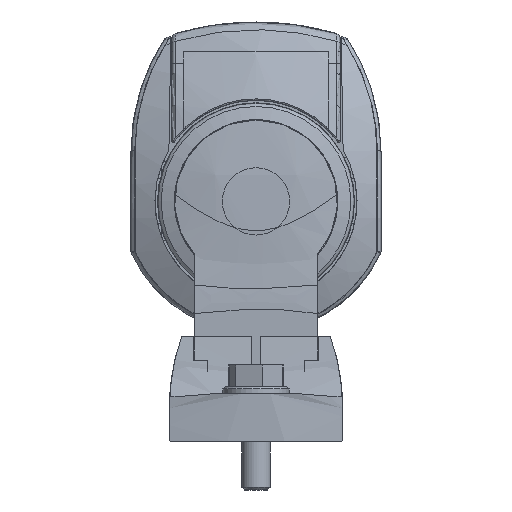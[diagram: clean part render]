
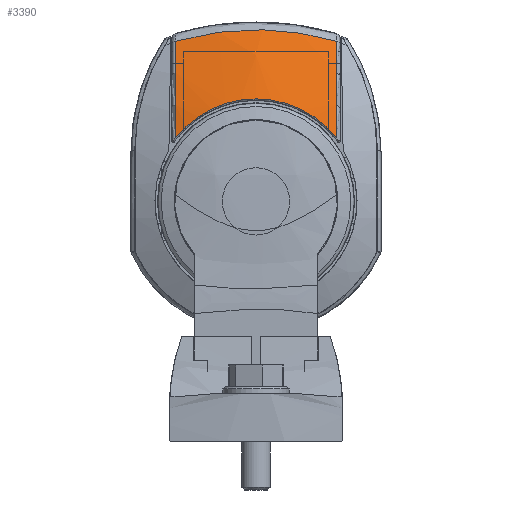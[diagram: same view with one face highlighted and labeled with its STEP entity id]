
A CAD part, front view. The second image highlights one B-rep face of the part: STEP entity #3390.
In plain terms, the highlighted spherical face has radius 75.5 mm.
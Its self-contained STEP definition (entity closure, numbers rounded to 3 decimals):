
#3327=CARTESIAN_POINT('',(0.0,-12.,-3.));
#3328=DIRECTION('',(1.0,0.0,0.0));
#3329=DIRECTION('',(0.0,1.0,0.0));
#3330=AXIS2_PLACEMENT_3D('',#3327,#3328,#3329);
#3331=SPHERICAL_SURFACE('',#3330,75.5);
#3332=CARTESIAN_POINT('',(-16.721,-77.969,29.691));
#3333=VERTEX_POINT('',#3332);
#3334=CARTESIAN_POINT('',(16.721,-77.969,29.691));
#3335=VERTEX_POINT('',#3334);
#3336=CARTESIAN_POINT('',(-16.721,-77.969,29.691));
#3337=CARTESIAN_POINT('',(-13.645,-78.302,30.594));
#3338=CARTESIAN_POINT('',(-8.877,-78.662,31.584));
#3339=CARTESIAN_POINT('',(-2.424,-78.854,32.11));
#3340=CARTESIAN_POINT('',(2.4,-78.854,32.111));
#3341=CARTESIAN_POINT('',(8.858,-78.664,31.587));
#3342=CARTESIAN_POINT('',(13.636,-78.303,30.597));
#3343=CARTESIAN_POINT('',(16.721,-77.969,29.691));
#3344=B_SPLINE_CURVE_WITH_KNOTS('',3,(#3336,#3337,#3338,#3339,#3340,#3341,#3342,#3343),.UNSPECIFIED.,.F.,.U.,(4,1,1,1,1,4),(0.385,1.311,1.774,2.237,2.701,3.627),.UNSPECIFIED.);
#3345=EDGE_CURVE('',#3333,#3335,#3344,.T.);
#3346=ORIENTED_EDGE('',*,*,#3345,.F.);
#3347=CARTESIAN_POINT('',(-16.721,-84.534,9.625));
#3348=VERTEX_POINT('',#3347);
#3349=CARTESIAN_POINT('',(-16.721,-12.,-3.));
#3350=DIRECTION('',(-1.,0.0,0.0));
#3351=DIRECTION('',(0.0,-0.954,0.299));
#3352=AXIS2_PLACEMENT_3D('',#3349,#3350,#3351);
#3353=CIRCLE('',#3352,73.625);
#3354=EDGE_CURVE('',#3348,#3333,#3353,.T.);
#3355=ORIENTED_EDGE('',*,*,#3354,.F.);
#3356=CARTESIAN_POINT('',(16.721,-84.534,9.625));
#3357=VERTEX_POINT('',#3356);
#3358=CARTESIAN_POINT('',(16.721,-84.534,9.625));
#3359=CARTESIAN_POINT('',(16.157,-84.54,10.339));
#3360=CARTESIAN_POINT('',(14.93,-84.552,11.701));
#3361=CARTESIAN_POINT('',(12.836,-84.567,13.495));
#3362=CARTESIAN_POINT('',(10.549,-84.579,14.993));
#3363=CARTESIAN_POINT('',(8.344,-84.588,16.064));
#3364=CARTESIAN_POINT('',(6.332,-84.594,16.784));
#3365=CARTESIAN_POINT('',(4.865,-84.597,17.172));
#3366=CARTESIAN_POINT('',(3.667,-84.599,17.408));
#3367=CARTESIAN_POINT('',(1.853,-84.601,17.685));
#3368=CARTESIAN_POINT('',(-0.303,-84.602,17.778));
#3369=CARTESIAN_POINT('',(-2.577,-84.6,17.582));
#3370=CARTESIAN_POINT('',(-4.98,-84.597,17.194));
#3371=CARTESIAN_POINT('',(-7.199,-84.592,16.535));
#3372=CARTESIAN_POINT('',(-9.295,-84.584,15.602));
#3373=CARTESIAN_POINT('',(-10.909,-84.577,14.756));
#3374=CARTESIAN_POINT('',(-12.827,-84.567,13.503));
#3375=CARTESIAN_POINT('',(-14.929,-84.552,11.703));
#3376=CARTESIAN_POINT('',(-16.157,-84.54,10.339));
#3377=CARTESIAN_POINT('',(-16.721,-84.534,9.625));
#3378=B_SPLINE_CURVE_WITH_KNOTS('',3,(#3358,#3359,#3360,#3361,#3362,#3363,#3364,#3365,#3366,#3367,#3368,#3369,#3370,#3371,#3372,#3373,#3374,#3375,#3376,#3377),.UNSPECIFIED.,.F.,.U.,(4,1,1,1,1,1,1,1,1,1,1,1,1,1,1,1,1,4),(0.0,0.272,0.544,0.816,1.089,1.27,1.452,1.542,1.633,1.996,2.177,2.313,2.722,2.858,2.994,3.266,3.538,3.81),.UNSPECIFIED.);
#3379=EDGE_CURVE('',#3357,#3348,#3378,.T.);
#3380=ORIENTED_EDGE('',*,*,#3379,.F.);
#3381=CARTESIAN_POINT('',(16.721,-12.,-3.));
#3382=DIRECTION('',(1.0,0.0,0.0));
#3383=DIRECTION('',(0.0,-0.954,0.299));
#3384=AXIS2_PLACEMENT_3D('',#3381,#3382,#3383);
#3385=CIRCLE('',#3384,73.625);
#3386=EDGE_CURVE('',#3335,#3357,#3385,.T.);
#3387=ORIENTED_EDGE('',*,*,#3386,.F.);
#3388=EDGE_LOOP('',(#3346,#3355,#3380,#3387));
#3389=FACE_OUTER_BOUND('',#3388,.T.);
#3390=ADVANCED_FACE('',(#3389),#3331,.T.);
